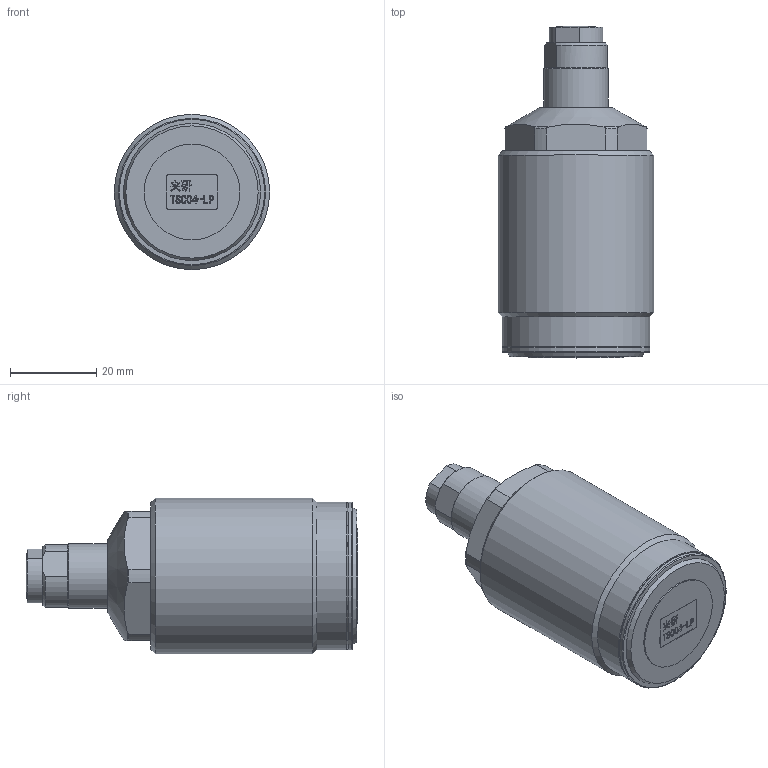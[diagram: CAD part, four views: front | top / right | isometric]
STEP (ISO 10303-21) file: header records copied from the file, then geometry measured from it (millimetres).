
FILE_DESCRIPTION(/* description */ (''),/* implementation_level */ '2;1');
FILE_NAME(/* name */ 'TSC04-LP.stp',/* time_stamp */ '2022-05-04T14:59:00+08:00',/* author */ (''),/* organization */ (''),/* preprocessor_version */ 'ST-DEVELOPER v16.7',/* originating_system */ 'SIEMENS PLM Software NX 12.0',/* authorisation */ '');
FILE_SCHEMA (('AUTOMOTIVE_DESIGN { 1 0 10303 214 3 1 1 1 }'));
Length unit declared in the file: millimetre
Products named in the file (1): TSC04-LP
Bounding box: 36 x 76.92 x 36 mm (x, y, z)
Volume: 56657.7 mm3; surface area: 11397.1 mm2
Topology: 3 solids, 3 shells, 251 faces, 637 edges, 418 vertices
Faces by surface type: plane 140, extrusion 62, cylinder 25, torus 13, cone 10, sphere 1
Full cylindrical faces by diameter (mm): 5 x1, 7.8 x1, 10 x2, 10.3 x1, 15 x2, 22.16 x1, 34.1 x2, 36 x1
Entity records: 9752 total; most frequent: CARTESIAN_POINT 2730, ORIENTED_EDGE 1214, DIRECTION 977, EDGE_CURVE 607, VECTOR 449, VERTEX_POINT 416, LINE 387, EDGE_LOOP 305
